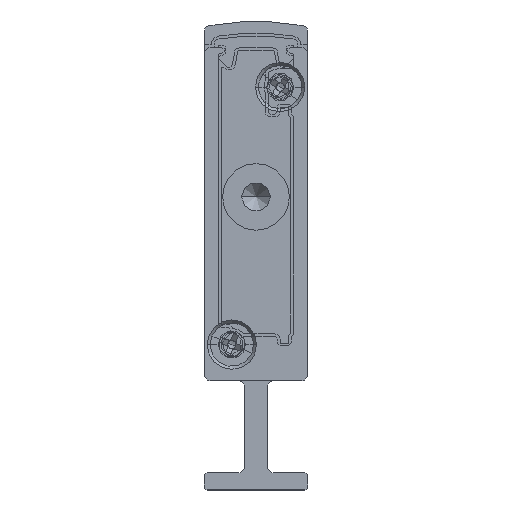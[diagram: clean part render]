
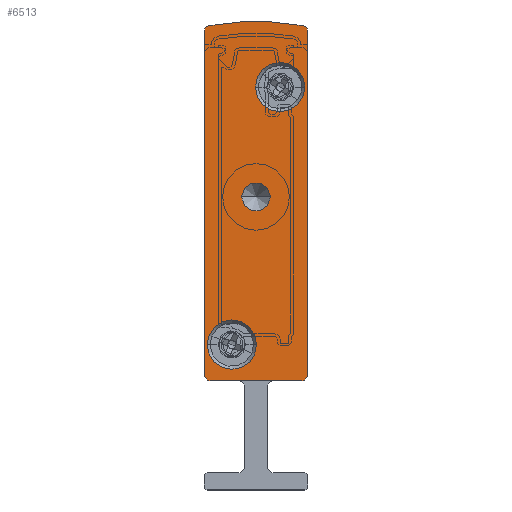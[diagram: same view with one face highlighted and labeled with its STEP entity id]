
A CAD part, front view. The second image highlights one B-rep face of the part: STEP entity #6513.
In plain terms, the highlighted planar face has unit normal (0, -1, 0).
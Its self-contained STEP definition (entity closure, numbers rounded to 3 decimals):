
#1241 = DIRECTION ( 'NONE',  ( 1., 0., 0. ) ) ;
#1298 = PLANE ( 'NONE',  #16394 ) ;
#2149 = CIRCLE ( 'NONE', #10587, 23.658 ) ;
#2481 = EDGE_CURVE ( 'NONE', #16518, #2657, #6519, .T. ) ;
#2657 = VERTEX_POINT ( 'NONE', #22583 ) ;
#2784 = CARTESIAN_POINT ( 'NONE',  ( 6.6, -2.5, 35.05 ) ) ;
#3654 = EDGE_CURVE ( 'NONE', #4819, #3973, #21541, .T. ) ;
#3973 = VERTEX_POINT ( 'NONE', #21912 ) ;
#4226 = DIRECTION ( 'NONE',  ( 0., 1., 0. ) ) ;
#4345 = CARTESIAN_POINT ( 'NONE',  ( 9., -2.5, 39.902 ) ) ;
#4819 = VERTEX_POINT ( 'NONE', #8704 ) ;
#5042 = DIRECTION ( 'NONE',  ( 1., 0., 0. ) ) ;
#5109 = FACE_BOUND ( 'NONE', #30250, .T. ) ;
#5274 = DIRECTION ( 'NONE',  ( 0., -1., 0. ) ) ;
#5374 = ORIENTED_EDGE ( 'NONE', *, *, #6588, .F. ) ;
#5491 = ORIENTED_EDGE ( 'NONE', *, *, #2481, .F. ) ;
#5876 = EDGE_LOOP ( 'NONE', ( #9275, #14132 ) ) ;
#5899 = VECTOR ( 'NONE', #12443, 1000. ) ;
#6311 = AXIS2_PLACEMENT_3D ( 'NONE', #12798, #15271, #17738 ) ;
#6513 = ADVANCED_FACE ( 'NONE', ( #32547, #5109, #8749, #14863 ), #1298, .F. ) ;
#6519 = CIRCLE ( 'NONE', #15908, 2.15 ) ;
#6588 = EDGE_CURVE ( 'NONE', #28164, #15885, #28469, .T. ) ;
#6735 = CARTESIAN_POINT ( 'NONE',  ( 0.5, -2.5, 39.902 ) ) ;
#7048 = ORIENTED_EDGE ( 'NONE', *, *, #7562, .F. ) ;
#7059 = DIRECTION ( 'NONE',  ( -1., 0., 0. ) ) ;
#7074 = AXIS2_PLACEMENT_3D ( 'NONE', #10984, #28980, #13621 ) ;
#7104 = CIRCLE ( 'NONE', #31801, 0.5 ) ;
#7174 = ORIENTED_EDGE ( 'NONE', *, *, #14018, .F. ) ;
#7407 = CARTESIAN_POINT ( 'NONE',  ( 0.5, -2.5, 9.5 ) ) ;
#7523 = VERTEX_POINT ( 'NONE', #17170 ) ;
#7562 = EDGE_CURVE ( 'NONE', #7523, #23706, #2149, .T. ) ;
#8704 = CARTESIAN_POINT ( 'NONE',  ( 3.25, -2.5, 25.5 ) ) ;
#8749 = FACE_OUTER_BOUND ( 'NONE', #20981, .T. ) ;
#9219 = EDGE_CURVE ( 'NONE', #15885, #28625, #14551, .T. ) ;
#9275 = ORIENTED_EDGE ( 'NONE', *, *, #12031, .F. ) ;
#10558 = VERTEX_POINT ( 'NONE', #15576 ) ;
#10587 = AXIS2_PLACEMENT_3D ( 'NONE', #19887, #29701, #27323 ) ;
#10633 = DIRECTION ( 'NONE',  ( -1., 0., 0. ) ) ;
#10976 = VERTEX_POINT ( 'NONE', #22212 ) ;
#10984 = CARTESIAN_POINT ( 'NONE',  ( 8.5, -2.5, 10. ) ) ;
#11710 = AXIS2_PLACEMENT_3D ( 'NONE', #18317, #18537, #10633 ) ;
#11823 = AXIS2_PLACEMENT_3D ( 'NONE', #17593, #27653, #7059 ) ;
#11827 = ORIENTED_EDGE ( 'NONE', *, *, #25933, .F. ) ;
#11831 = EDGE_CURVE ( 'NONE', #23706, #15857, #14332, .T. ) ;
#12031 = EDGE_CURVE ( 'NONE', #12907, #10558, #26747, .T. ) ;
#12443 = DIRECTION ( 'NONE',  ( -1., 0., 0. ) ) ;
#12445 = CIRCLE ( 'NONE', #27245, 2.15 ) ;
#12798 = CARTESIAN_POINT ( 'NONE',  ( 2.4, -2.5, 12.65 ) ) ;
#12907 = VERTEX_POINT ( 'NONE', #30544 ) ;
#13292 = CARTESIAN_POINT ( 'NONE',  ( 8.5, -2.5, 9.5 ) ) ;
#13621 = DIRECTION ( 'NONE',  ( -1., 0., 0. ) ) ;
#13653 = CARTESIAN_POINT ( 'NONE',  ( 0., -2.5, 39.902 ) ) ;
#13903 = EDGE_CURVE ( 'NONE', #10558, #12907, #12445, .T. ) ;
#14018 = EDGE_CURVE ( 'NONE', #2657, #16518, #18428, .T. ) ;
#14132 = ORIENTED_EDGE ( 'NONE', *, *, #13903, .F. ) ;
#14332 = CIRCLE ( 'NONE', #19034, 0.5 ) ;
#14551 = CIRCLE ( 'NONE', #32881, 0.5 ) ;
#14630 = VERTEX_POINT ( 'NONE', #13653 ) ;
#14721 = DIRECTION ( 'NONE',  ( 0., 1., 0. ) ) ;
#14863 = FACE_BOUND ( 'NONE', #17494, .T. ) ;
#15271 = DIRECTION ( 'NONE',  ( 0., -1., 0. ) ) ;
#15576 = CARTESIAN_POINT ( 'NONE',  ( 4.45, -2.5, 35.05 ) ) ;
#15857 = VERTEX_POINT ( 'NONE', #27061 ) ;
#15885 = VERTEX_POINT ( 'NONE', #22143 ) ;
#15908 = AXIS2_PLACEMENT_3D ( 'NONE', #26740, #31694, #1241 ) ;
#16394 = AXIS2_PLACEMENT_3D ( 'NONE', #22209, #22091, #21868 ) ;
#16518 = VERTEX_POINT ( 'NONE', #23439 ) ;
#17170 = CARTESIAN_POINT ( 'NONE',  ( 0.408, -2.5, 40.393 ) ) ;
#17494 = EDGE_LOOP ( 'NONE', ( #25802, #27066 ) ) ;
#17593 = CARTESIAN_POINT ( 'NONE',  ( 4.5, -2.5, 25.5 ) ) ;
#17738 = DIRECTION ( 'NONE',  ( 1., 0., 0. ) ) ;
#18317 = CARTESIAN_POINT ( 'NONE',  ( 4.5, -2.5, 25.5 ) ) ;
#18428 = CIRCLE ( 'NONE', #6311, 2.15 ) ;
#18527 = ORIENTED_EDGE ( 'NONE', *, *, #9219, .F. ) ;
#18537 = DIRECTION ( 'NONE',  ( 0., 1., 0. ) ) ;
#18637 = CIRCLE ( 'NONE', #7074, 0.5 ) ;
#18641 = ORIENTED_EDGE ( 'NONE', *, *, #11831, .F. ) ;
#18762 = EDGE_CURVE ( 'NONE', #15857, #10976, #21418, .T. ) ;
#19034 = AXIS2_PLACEMENT_3D ( 'NONE', #27045, #14721, #27365 ) ;
#19370 = ORIENTED_EDGE ( 'NONE', *, *, #18762, .F. ) ;
#19548 = DIRECTION ( 'NONE',  ( 0., 0., -1. ) ) ;
#19614 = CARTESIAN_POINT ( 'NONE',  ( 8.592, -2.5, 40.393 ) ) ;
#19887 = CARTESIAN_POINT ( 'NONE',  ( 4.5, -2.5, 17.092 ) ) ;
#19910 = CARTESIAN_POINT ( 'NONE',  ( 6.6, -2.5, 35.05 ) ) ;
#20141 = DIRECTION ( 'NONE',  ( 1., 0., 0. ) ) ;
#20234 = VECTOR ( 'NONE', #19548, 1000. ) ;
#20981 = EDGE_LOOP ( 'NONE', ( #28397, #23355, #18527, #5374, #11827, #19370, #18641, #7048 ) ) ;
#21418 = LINE ( 'NONE', #4345, #20234 ) ;
#21541 = CIRCLE ( 'NONE', #11823, 1.25 ) ;
#21868 = DIRECTION ( 'NONE',  ( -1., 0., 0. ) ) ;
#21884 = CIRCLE ( 'NONE', #11710, 1.25 ) ;
#21912 = CARTESIAN_POINT ( 'NONE',  ( 5.75, -2.5, 25.5 ) ) ;
#22044 = EDGE_CURVE ( 'NONE', #14630, #7523, #7104, .T. ) ;
#22091 = DIRECTION ( 'NONE',  ( 0., 1., 0. ) ) ;
#22143 = CARTESIAN_POINT ( 'NONE',  ( 0.5, -2.5, 9.5 ) ) ;
#22209 = CARTESIAN_POINT ( 'NONE',  ( 0.5, -2.5, 39.902 ) ) ;
#22212 = CARTESIAN_POINT ( 'NONE',  ( 9., -2.5, 10. ) ) ;
#22583 = CARTESIAN_POINT ( 'NONE',  ( 4.55, -2.5, 12.65 ) ) ;
#23153 = CARTESIAN_POINT ( 'NONE',  ( 0., -2.5, 10. ) ) ;
#23155 = EDGE_CURVE ( 'NONE', #3973, #4819, #21884, .T. ) ;
#23355 = ORIENTED_EDGE ( 'NONE', *, *, #24415, .F. ) ;
#23439 = CARTESIAN_POINT ( 'NONE',  ( 0.25, -2.5, 12.65 ) ) ;
#23706 = VERTEX_POINT ( 'NONE', #19614 ) ;
#24415 = EDGE_CURVE ( 'NONE', #28625, #14630, #25304, .T. ) ;
#24974 = CARTESIAN_POINT ( 'NONE',  ( 0., -2.5, 39.902 ) ) ;
#25078 = AXIS2_PLACEMENT_3D ( 'NONE', #2784, #5274, #5042 ) ;
#25304 = LINE ( 'NONE', #24974, #26093 ) ;
#25802 = ORIENTED_EDGE ( 'NONE', *, *, #3654, .T. ) ;
#25933 = EDGE_CURVE ( 'NONE', #10976, #28164, #18637, .T. ) ;
#26093 = VECTOR ( 'NONE', #33301, 1000. ) ;
#26740 = CARTESIAN_POINT ( 'NONE',  ( 2.4, -2.5, 12.65 ) ) ;
#26747 = CIRCLE ( 'NONE', #25078, 2.15 ) ;
#27045 = CARTESIAN_POINT ( 'NONE',  ( 8.5, -2.5, 39.902 ) ) ;
#27061 = CARTESIAN_POINT ( 'NONE',  ( 9., -2.5, 39.902 ) ) ;
#27066 = ORIENTED_EDGE ( 'NONE', *, *, #23155, .T. ) ;
#27245 = AXIS2_PLACEMENT_3D ( 'NONE', #19910, #30308, #20141 ) ;
#27323 = DIRECTION ( 'NONE',  ( -1., 0., 0. ) ) ;
#27365 = DIRECTION ( 'NONE',  ( -1., 0., 0. ) ) ;
#27653 = DIRECTION ( 'NONE',  ( 0., 1., 0. ) ) ;
#28164 = VERTEX_POINT ( 'NONE', #13292 ) ;
#28397 = ORIENTED_EDGE ( 'NONE', *, *, #22044, .F. ) ;
#28469 = LINE ( 'NONE', #7407, #5899 ) ;
#28625 = VERTEX_POINT ( 'NONE', #23153 ) ;
#28980 = DIRECTION ( 'NONE',  ( 0., 1., 0. ) ) ;
#29701 = DIRECTION ( 'NONE',  ( 0., 1., 0. ) ) ;
#30180 = DIRECTION ( 'NONE',  ( -1., 0., 0. ) ) ;
#30250 = EDGE_LOOP ( 'NONE', ( #7174, #5491 ) ) ;
#30308 = DIRECTION ( 'NONE',  ( 0., -1., 0. ) ) ;
#30544 = CARTESIAN_POINT ( 'NONE',  ( 8.75, -2.5, 35.05 ) ) ;
#30713 = CARTESIAN_POINT ( 'NONE',  ( 0.5, -2.5, 10. ) ) ;
#30809 = DIRECTION ( 'NONE',  ( 0., 1., 0. ) ) ;
#31694 = DIRECTION ( 'NONE',  ( 0., -1., 0. ) ) ;
#31801 = AXIS2_PLACEMENT_3D ( 'NONE', #6735, #4226, #30180 ) ;
#32547 = FACE_BOUND ( 'NONE', #5876, .T. ) ;
#32881 = AXIS2_PLACEMENT_3D ( 'NONE', #30713, #30809, #33396 ) ;
#33301 = DIRECTION ( 'NONE',  ( 0., 0., 1. ) ) ;
#33396 = DIRECTION ( 'NONE',  ( -1., 0., 0. ) ) ;
